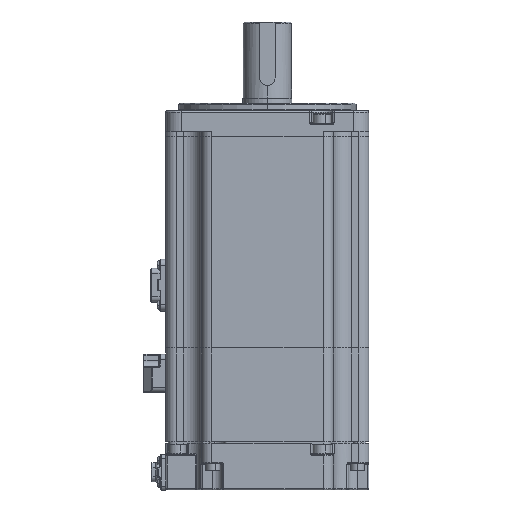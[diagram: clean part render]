
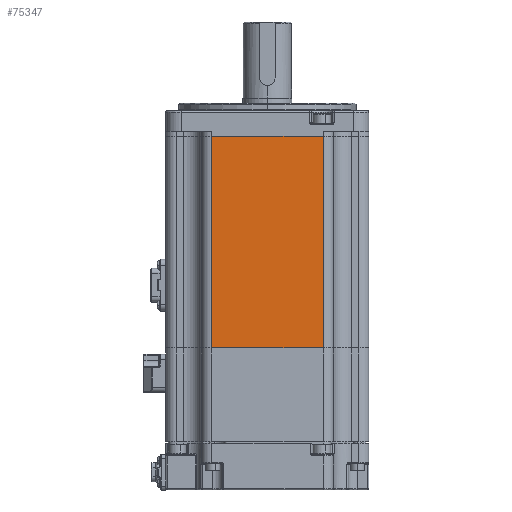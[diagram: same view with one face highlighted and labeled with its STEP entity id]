
A CAD part, left-side view. The second image highlights one B-rep face of the part: STEP entity #75347.
In plain terms, the highlighted planar face has unit normal (-1, 0, 0) as drawn and (0, -1, 0) by its records, which use the part's own axes.
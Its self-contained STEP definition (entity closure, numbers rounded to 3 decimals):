
#154 = CARTESIAN_POINT ( 'NONE',  ( 22., -40., 0. ) ) ;
#10864 = ORIENTED_EDGE ( 'NONE', *, *, #152792, .F. ) ;
#11260 = ORIENTED_EDGE ( 'NONE', *, *, #88955, .F. ) ;
#17631 = VECTOR ( 'NONE', #72581, 1000. ) ;
#23095 = CARTESIAN_POINT ( 'NONE',  ( -33., -40., 0. ) ) ;
#24152 = LINE ( 'NONE', #89006, #51984 ) ;
#32481 = VERTEX_POINT ( 'NONE', #140289 ) ;
#50897 = CARTESIAN_POINT ( 'NONE',  ( 22., -40., 83.5 ) ) ;
#51984 = VECTOR ( 'NONE', #163637, 1000. ) ;
#66154 = EDGE_LOOP ( 'NONE', ( #100971, #10864, #11260, #164417 ) ) ;
#70285 = PLANE ( 'NONE',  #188853 ) ;
#72581 = DIRECTION ( 'NONE',  ( 1., 0., 0. ) ) ;
#72593 = CARTESIAN_POINT ( 'NONE',  ( -22., -40., 83.5 ) ) ;
#73471 = LINE ( 'NONE', #158816, #123760 ) ;
#75347 = ADVANCED_FACE ( 'NONE', ( #116770 ), #70285, .F. ) ;
#75898 = CARTESIAN_POINT ( 'NONE',  ( -22., -40., 83.5 ) ) ;
#85803 = DIRECTION ( 'NONE',  ( 0., 1., 0. ) ) ;
#88955 = EDGE_CURVE ( 'NONE', #32481, #193955, #161174, .T. ) ;
#89006 = CARTESIAN_POINT ( 'NONE',  ( 22., -40., 83.5 ) ) ;
#100971 = ORIENTED_EDGE ( 'NONE', *, *, #192607, .F. ) ;
#116770 = FACE_OUTER_BOUND ( 'NONE', #66154, .T. ) ;
#118265 = VECTOR ( 'NONE', #125185, 1000. ) ;
#123760 = VECTOR ( 'NONE', #129181, 1000. ) ;
#125185 = DIRECTION ( 'NONE',  ( 0., 0., 1. ) ) ;
#129181 = DIRECTION ( 'NONE',  ( 1., 0., 0. ) ) ;
#139417 = DIRECTION ( 'NONE',  ( 0., 0., 1. ) ) ;
#140289 = CARTESIAN_POINT ( 'NONE',  ( -22., -40., 0. ) ) ;
#144757 = VERTEX_POINT ( 'NONE', #50897 ) ;
#152529 = VERTEX_POINT ( 'NONE', #154 ) ;
#152792 = EDGE_CURVE ( 'NONE', #193955, #144757, #73471, .T. ) ;
#158816 = CARTESIAN_POINT ( 'NONE',  ( -33., -40., 83.5 ) ) ;
#161174 = LINE ( 'NONE', #75898, #118265 ) ;
#162754 = EDGE_CURVE ( 'NONE', #32481, #152529, #184412, .T. ) ;
#163637 = DIRECTION ( 'NONE',  ( 0., 0., -1. ) ) ;
#164417 = ORIENTED_EDGE ( 'NONE', *, *, #162754, .T. ) ;
#182506 = CARTESIAN_POINT ( 'NONE',  ( -22., -40., 83.5 ) ) ;
#184412 = LINE ( 'NONE', #23095, #17631 ) ;
#188853 = AXIS2_PLACEMENT_3D ( 'NONE', #182506, #85803, #139417 ) ;
#192607 = EDGE_CURVE ( 'NONE', #144757, #152529, #24152, .T. ) ;
#193955 = VERTEX_POINT ( 'NONE', #72593 ) ;
